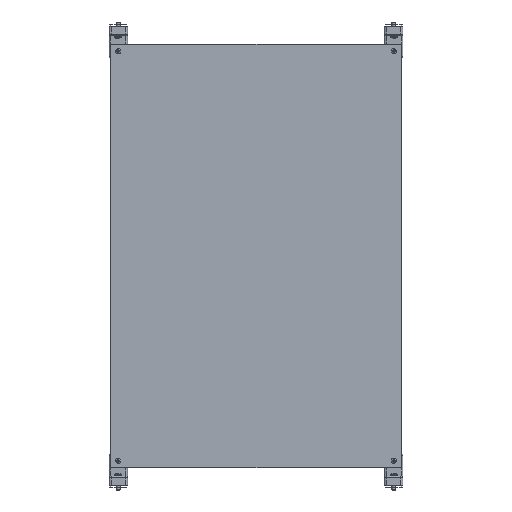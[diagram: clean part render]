
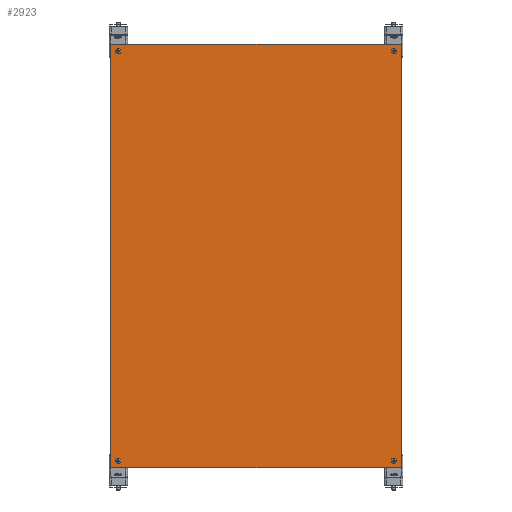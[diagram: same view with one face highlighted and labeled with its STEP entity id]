
A CAD part, front view. The second image highlights one B-rep face of the part: STEP entity #2923.
In plain terms, the highlighted planar face has unit normal (0, -1, 0).
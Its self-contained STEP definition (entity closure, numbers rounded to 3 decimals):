
#67=LINE('',#8279,#435);
#68=LINE('',#8282,#436);
#69=LINE('',#8284,#437);
#70=LINE('',#8286,#438);
#435=VECTOR('',#6750,1.);
#436=VECTOR('',#6751,1.);
#437=VECTOR('',#6752,1.);
#438=VECTOR('',#6753,1.);
#2602=PLANE('',#6197);
#2697=FACE_OUTER_BOUND('',#3231,.T.);
#2923=ADVANCED_FACE('',(#2697),#2602,.T.);
#3231=EDGE_LOOP('',(#3513,#3514,#3515,#3516));
#3513=ORIENTED_EDGE('',*,*,#5143,.T.);
#3514=ORIENTED_EDGE('',*,*,#5144,.T.);
#3515=ORIENTED_EDGE('',*,*,#5145,.T.);
#3516=ORIENTED_EDGE('',*,*,#5146,.T.);
#4521=VERTEX_POINT('',#8280);
#4522=VERTEX_POINT('',#8281);
#4523=VERTEX_POINT('',#8283);
#4524=VERTEX_POINT('',#8285);
#5143=EDGE_CURVE('',#4521,#4522,#67,.T.);
#5144=EDGE_CURVE('',#4522,#4523,#68,.T.);
#5145=EDGE_CURVE('',#4523,#4524,#69,.T.);
#5146=EDGE_CURVE('',#4524,#4521,#70,.T.);
#6197=AXIS2_PLACEMENT_3D('',#8287,#6754,#6755);
#6750=DIRECTION('',(0.,0.,-1.));
#6751=DIRECTION('',(1.,0.,0.));
#6752=DIRECTION('',(0.,0.,1.));
#6753=DIRECTION('',(-1.,0.,0.));
#6754=DIRECTION('',(0.,-1.,0.));
#6755=DIRECTION('',(1.,0.,0.));
#8279=CARTESIAN_POINT('',(-407.,-148.,146.));
#8280=CARTESIAN_POINT('',(-407.,-148.,146.));
#8281=CARTESIAN_POINT('',(-407.,-148.,-448.));
#8282=CARTESIAN_POINT('',(-407.,-148.,-448.));
#8283=CARTESIAN_POINT('',(0.,-148.,-448.));
#8284=CARTESIAN_POINT('',(0.,-148.,-448.));
#8285=CARTESIAN_POINT('',(0.,-148.,146.));
#8286=CARTESIAN_POINT('',(0.,-148.,146.));
#8287=CARTESIAN_POINT('',(0.,-148.,146.));
